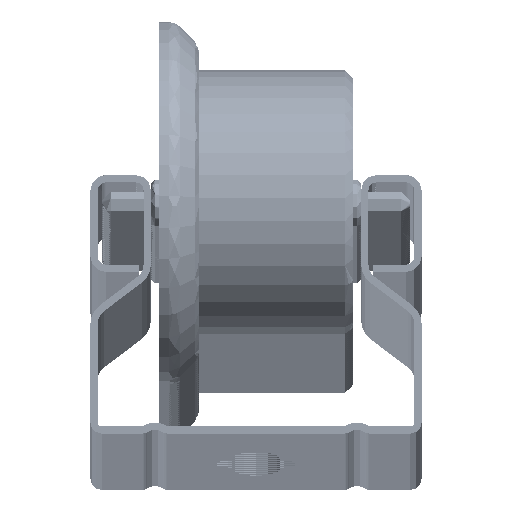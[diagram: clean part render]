
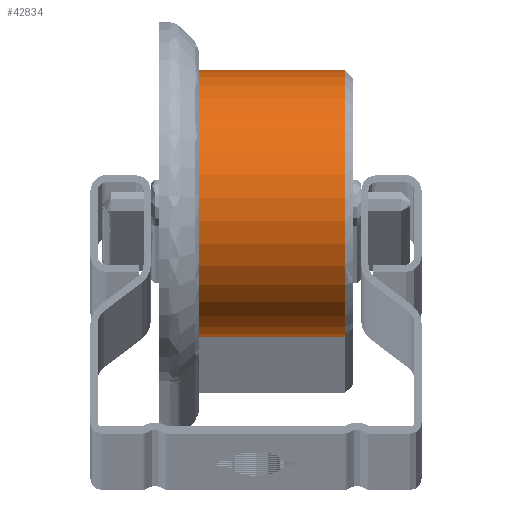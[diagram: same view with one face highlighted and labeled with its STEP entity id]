
A CAD part, top view. The second image highlights one B-rep face of the part: STEP entity #42834.
In plain terms, the highlighted cylindrical face has radius 16.5 mm (diameter 33 mm), a full revolution.
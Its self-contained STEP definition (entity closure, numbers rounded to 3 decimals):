
#17297 = FACE_OUTER_BOUND ( 'NONE', #168351, .T. ) ;
#20634 = CARTESIAN_POINT ( 'NONE',  ( -13.421, 15.578, 4056.5 ) ) ;
#21662 = DIRECTION ( 'NONE',  ( 0., 0.612, -0.791 ) ) ;
#31436 = CARTESIAN_POINT ( 'NONE',  ( -8.421, 25.679, 4043.453 ) ) ;
#32843 = ORIENTED_EDGE ( 'NONE', *, *, #218803, .T. ) ;
#42834 = ADVANCED_FACE ( 'NONE', ( #250337, #17297 ), #121168, .T. ) ;
#51178 = DIRECTION ( 'NONE',  ( 0., 0.612, -0.791 ) ) ;
#59528 = AXIS2_PLACEMENT_3D ( 'NONE', #305415, #303756, #145638 ) ;
#97137 = VERTEX_POINT ( 'NONE', #144854 ) ;
#108745 = AXIS2_PLACEMENT_3D ( 'NONE', #20634, #127868, #51178 ) ;
#121168 = CYLINDRICAL_SURFACE ( 'NONE', #108745, 16.5 ) ;
#127868 = DIRECTION ( 'NONE',  ( 1., 0., 0. ) ) ;
#137752 = EDGE_LOOP ( 'NONE', ( #32843 ) ) ;
#144854 = CARTESIAN_POINT ( 'NONE',  ( 9.579, 25.679, 4043.453 ) ) ;
#145638 = DIRECTION ( 'NONE',  ( 0., 0.612, -0.791 ) ) ;
#150928 = CARTESIAN_POINT ( 'NONE',  ( 9.579, 15.578, 4056.5 ) ) ;
#152588 = DIRECTION ( 'NONE',  ( -1., 0., 0. ) ) ;
#160910 = ORIENTED_EDGE ( 'NONE', *, *, #183521, .T. ) ;
#168351 = EDGE_LOOP ( 'NONE', ( #160910 ) ) ;
#183521 = EDGE_CURVE ( 'NONE', #237349, #237349, #265910, .T. ) ;
#205292 = AXIS2_PLACEMENT_3D ( 'NONE', #150928, #152588, #21662 ) ;
#218803 = EDGE_CURVE ( 'NONE', #97137, #97137, #313976, .T. ) ;
#237349 = VERTEX_POINT ( 'NONE', #31436 ) ;
#250337 = FACE_OUTER_BOUND ( 'NONE', #137752, .T. ) ;
#265910 = CIRCLE ( 'NONE', #59528, 16.5 ) ;
#303756 = DIRECTION ( 'NONE',  ( 1., 0., 0. ) ) ;
#305415 = CARTESIAN_POINT ( 'NONE',  ( -8.421, 15.578, 4056.5 ) ) ;
#313976 = CIRCLE ( 'NONE', #205292, 16.5 ) ;
